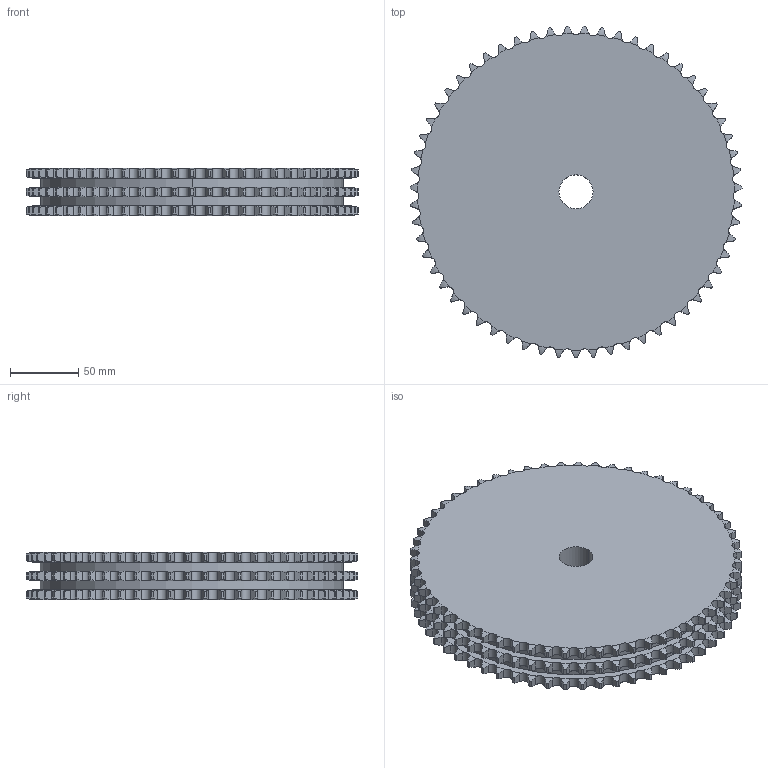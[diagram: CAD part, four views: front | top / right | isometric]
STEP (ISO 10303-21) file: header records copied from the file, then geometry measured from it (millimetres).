
FILE_DESCRIPTION((''),'2;1');
FILE_NAME('500-203-0059_PRT','2021-02-12T',('Brieden'),('Brieden'),'PRO/ENGINEER BY PARAMETRIC TECHNOLOGY CORPORATION, 2010160','PRO/ENGINEER BY PARAMETRIC TECHNOLOGY CORPORATION, 2010160','');
FILE_SCHEMA(('AUTOMOTIVE_DESIGN { 1 0 10303 214 1 1 1 1 }'));
Length unit declared in the file: millimetre
Products named in the file (1): 500-203-0059_PRT
Bounding box: 243.87 x 243.78 x 34.9 mm (x, y, z)
Volume: 1442825.6 mm3; surface area: 140719.2 mm2
Topology: 1 solids, 1 shells, 1074 faces, 3204 edges, 2136 vertices
Faces by surface type: cylinder 714, torus 354, plane 6
Entity records: 52525 total; most frequent: CARTESIAN_POINT 15706, ORIENTED_EDGE 6408, DIRECTION 5010, PRESENTATION_STYLE_ASSIGNMENT 3205, STYLED_ITEM 3205, CURVE_STYLE 3204, EDGE_CURVE 3204, AXIS2_PLACEMENT_3D 2148
